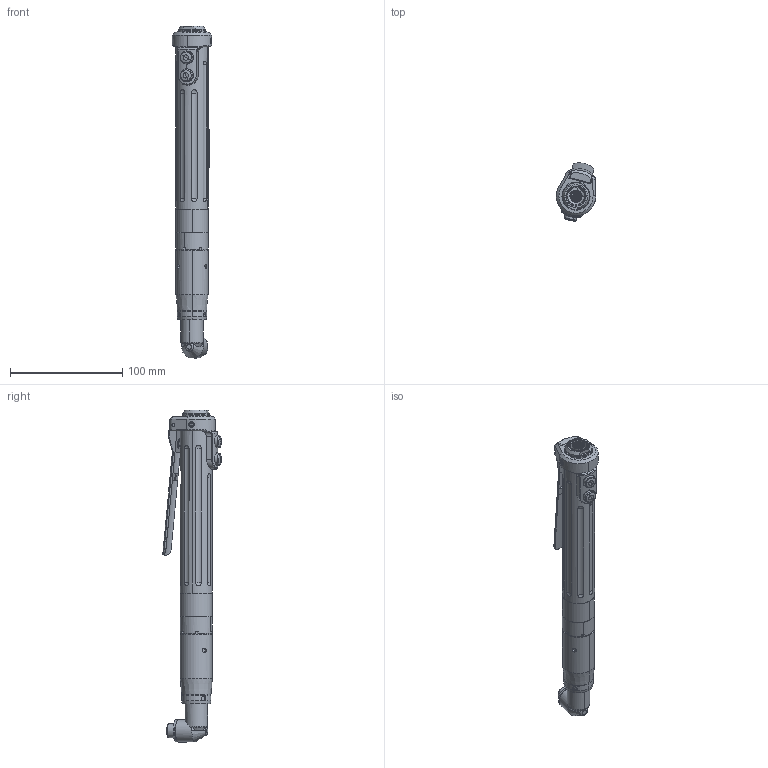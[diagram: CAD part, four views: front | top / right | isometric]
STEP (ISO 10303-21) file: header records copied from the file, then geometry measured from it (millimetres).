
FILE_DESCRIPTION (( 'STEP AP214' ), '1' );
FILE_NAME ('ASG-SD2500-10RQ-J.STEP', '2023-01-17T16:33:45', ( '' ), ( '' ), 'SwSTEP 2.0', 'SolidWorks 2022', '' );
FILE_SCHEMA (( 'AUTOMOTIVE_DESIGN' ));
Length unit declared in the file: millimetre
Products named in the file (1): ASG-SD2500-10RQ-J
Bounding box: 34.94 x 52.05 x 295.36 mm (x, y, z)
Surface area: 43723.9 mm2 (no closed solid volume)
Topology: 0 solids, 29 shells, 484 faces, 1396 edges, 934 vertices
Faces by surface type: cylinder 188, plane 106, torus 70, bspline 58, cone 54, sphere 8
Entity records: 41471 total; most frequent: CARTESIAN_POINT 24150, ORIENTED_EDGE 2431, DIRECTION 2376, EDGE_CURVE 1396, AXIS2_PLACEMENT_3D 979, VERTEX_POINT 934, CIRCLE 552, EDGE_LOOP 551
